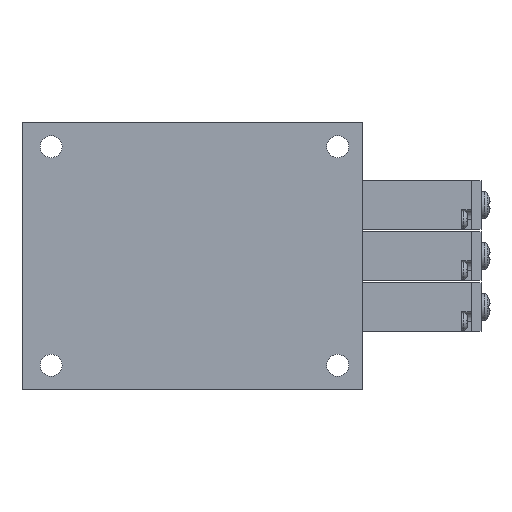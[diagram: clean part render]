
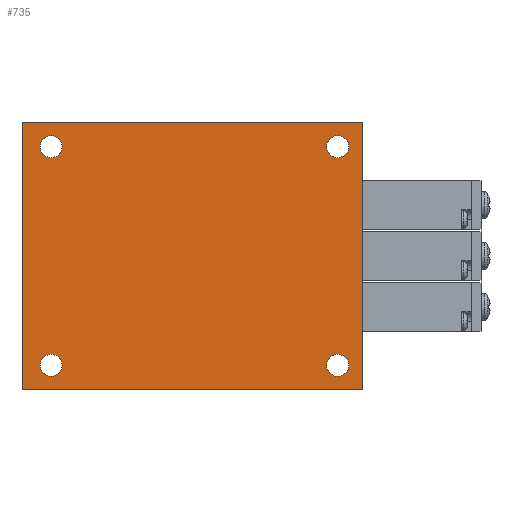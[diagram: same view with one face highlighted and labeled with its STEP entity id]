
A CAD part, front view. The second image highlights one B-rep face of the part: STEP entity #735.
In plain terms, the highlighted planar face has unit normal (0, -1, 0).
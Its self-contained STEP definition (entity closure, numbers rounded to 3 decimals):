
#735=ADVANCED_FACE('',(#1433,#1434,#1435,#1436,#1437),#1438,.F.);
#1433=FACE_OUTER_BOUND('',#2154,.T.);
#1434=FACE_BOUND('',#2155,.T.);
#1435=FACE_BOUND('',#2156,.T.);
#1436=FACE_BOUND('',#2157,.T.);
#1437=FACE_BOUND('',#2158,.T.);
#1438=PLANE('',#2159);
#2154=EDGE_LOOP('',(#4544,#4545,#4546,#4547));
#2155=EDGE_LOOP('',(#4548));
#2156=EDGE_LOOP('',(#4549));
#2157=EDGE_LOOP('',(#4550));
#2158=EDGE_LOOP('',(#4551));
#2159=AXIS2_PLACEMENT_3D('',#4552,#4553,#4554);
#4544=ORIENTED_EDGE('',*,*,#5339,.T.);
#4545=ORIENTED_EDGE('',*,*,#5338,.F.);
#4546=ORIENTED_EDGE('',*,*,#5317,.F.);
#4547=ORIENTED_EDGE('',*,*,#5332,.T.);
#4548=ORIENTED_EDGE('',*,*,#5329,.F.);
#4549=ORIENTED_EDGE('',*,*,#5340,.F.);
#4550=ORIENTED_EDGE('',*,*,#5341,.F.);
#4551=ORIENTED_EDGE('',*,*,#5342,.F.);
#4552=CARTESIAN_POINT('',(0.0,0.0,27.5));
#4553=DIRECTION('',(-0.0,1.0,0.0));
#4554=DIRECTION('',(1.0,0.0,0.0));
#5317=EDGE_CURVE('',#6555,#6557,#6558,.T.);
#5329=EDGE_CURVE('',#6580,#6580,#6581,.T.);
#5332=EDGE_CURVE('',#6555,#6585,#6587,.T.);
#5338=EDGE_CURVE('',#6557,#6593,#6597,.T.);
#5339=EDGE_CURVE('',#6585,#6593,#6598,.T.);
#5340=EDGE_CURVE('',#6599,#6599,#6600,.T.);
#5341=EDGE_CURVE('',#6601,#6601,#6602,.T.);
#5342=EDGE_CURVE('',#6603,#6603,#6604,.T.);
#6555=VERTEX_POINT('',#8656);
#6557=VERTEX_POINT('',#8659);
#6558=LINE('',#8660,#8661);
#6580=VERTEX_POINT('',#8684);
#6581=CIRCLE('',#8685,2.25);
#6585=VERTEX_POINT('',#8689);
#6587=LINE('',#8692,#8693);
#6593=VERTEX_POINT('',#8700);
#6597=LINE('',#8706,#8707);
#6598=LINE('',#8708,#8709);
#6599=VERTEX_POINT('',#8710);
#6600=CIRCLE('',#8711,2.25);
#6601=VERTEX_POINT('',#8712);
#6602=CIRCLE('',#8713,2.25);
#6603=VERTEX_POINT('',#8714);
#6604=CIRCLE('',#8715,2.25);
#8656=CARTESIAN_POINT('',(0.0,0.0,27.5));
#8659=CARTESIAN_POINT('',(70.0,0.0,27.5));
#8660=CARTESIAN_POINT('',(0.0,0.0,27.5));
#8661=VECTOR('',#9721,1.0);
#8684=CARTESIAN_POINT('',(6.0,0.0,24.75));
#8685=AXIS2_PLACEMENT_3D('',#9753,#9754,#9755);
#8689=CARTESIAN_POINT('',(0.0,0.0,-27.5));
#8692=CARTESIAN_POINT('',(0.0,0.0,27.5));
#8693=VECTOR('',#9760,1.0);
#8700=CARTESIAN_POINT('',(70.0,0.0,-27.5));
#8706=CARTESIAN_POINT('',(70.0,0.0,27.5));
#8707=VECTOR('',#9770,1.0);
#8708=CARTESIAN_POINT('',(0.0,0.0,-27.5));
#8709=VECTOR('',#9771,1.0);
#8710=CARTESIAN_POINT('',(65.0,0.0,-20.25));
#8711=AXIS2_PLACEMENT_3D('',#9772,#9773,#9774);
#8712=CARTESIAN_POINT('',(6.0,0.0,-20.25));
#8713=AXIS2_PLACEMENT_3D('',#9775,#9776,#9777);
#8714=CARTESIAN_POINT('',(65.0,0.0,24.75));
#8715=AXIS2_PLACEMENT_3D('',#9778,#9779,#9780);
#9721=DIRECTION('',(1.0,0.0,0.0));
#9753=CARTESIAN_POINT('',(6.0,0.0,22.5));
#9754=DIRECTION('',(0.0,-1.0,0.0));
#9755=DIRECTION('',(0.0,0.0,1.0));
#9760=DIRECTION('',(0.0,0.0,-1.0));
#9770=DIRECTION('',(0.0,0.0,-1.0));
#9771=DIRECTION('',(1.0,0.0,0.0));
#9772=CARTESIAN_POINT('',(65.0,0.0,-22.5));
#9773=DIRECTION('',(0.0,-1.0,0.0));
#9774=DIRECTION('',(0.0,0.0,1.0));
#9775=CARTESIAN_POINT('',(6.0,0.0,-22.5));
#9776=DIRECTION('',(0.0,-1.0,0.0));
#9777=DIRECTION('',(0.0,0.0,1.0));
#9778=CARTESIAN_POINT('',(65.0,0.0,22.5));
#9779=DIRECTION('',(0.0,-1.0,0.0));
#9780=DIRECTION('',(0.0,0.0,1.0));
